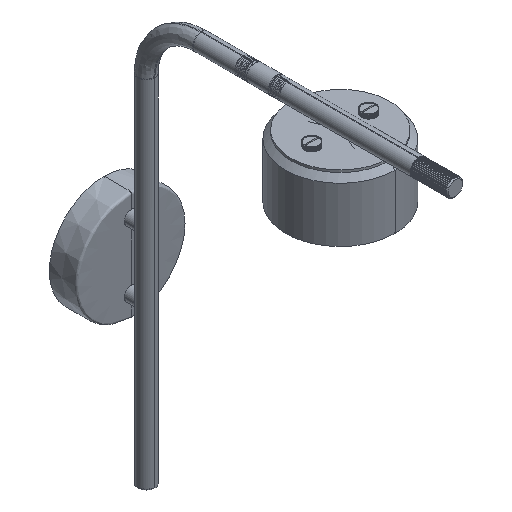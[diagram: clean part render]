
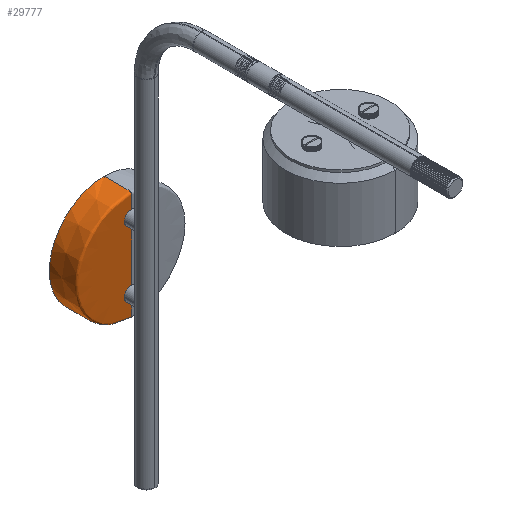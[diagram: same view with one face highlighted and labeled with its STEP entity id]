
A CAD part, isometric view. The second image highlights one B-rep face of the part: STEP entity #29777.
In plain terms, the highlighted free-form (B-spline) face has degree [2, 2] with [7, 5] control points.
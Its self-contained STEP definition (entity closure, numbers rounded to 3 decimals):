
#224 = CARTESIAN_POINT ( 'NONE',  ( 309., 47.5, 201.264 ) ) ;
#1681 = CARTESIAN_POINT ( 'NONE',  ( 309., 47.5, 201.264 ) ) ;
#1913 = CARTESIAN_POINT ( 'NONE',  ( 309., 24.5, 101.264 ) ) ;
#2345 = CARTESIAN_POINT ( 'NONE',  ( 259., 24.5, 151.264 ) ) ;
#2785 = CARTESIAN_POINT ( 'NONE',  ( 309., 22.5, 151.264 ) ) ;
#4543 = EDGE_CURVE ( 'NONE', #14286, #6048, #34027, .T. ) ;
#5151 = ORIENTED_EDGE ( 'NONE', *, *, #4543, .T. ) ;
#5488 = CARTESIAN_POINT ( 'NONE',  ( 259., 47.5, 201.264 ) ) ;
#5697 = CARTESIAN_POINT ( 'NONE',  ( 259., 22.5, 151.264 ) ) ;
#5914 = CARTESIAN_POINT ( 'NONE',  ( 259., 47.5, 151.264 ) ) ;
#6048 = VERTEX_POINT ( 'NONE', #224 ) ;
#6128 = CARTESIAN_POINT ( 'NONE',  ( 309., 24.5, 101.264 ) ) ;
#6565 = CARTESIAN_POINT ( 'NONE',  ( 309., 22.5, 127.264 ) ) ;
#8849 = CARTESIAN_POINT ( 'NONE',  ( 259., 47.5, 151.264 ) ) ;
#8851 = CARTESIAN_POINT ( 'NONE',  ( 309., 47.5, 201.264 ) ) ;
#9071 = CARTESIAN_POINT ( 'NONE',  ( 259., 22.5, 101.264 ) ) ;
#9285 = CARTESIAN_POINT ( 'NONE',  ( 309., 22.5, 101.264 ) ) ;
#9496 = CARTESIAN_POINT ( 'NONE',  ( 309., 22.5, 151.264 ) ) ;
#9723 = CARTESIAN_POINT ( 'NONE',  ( 259., 24.5, 101.264 ) ) ;
#11618 = ORIENTED_EDGE ( 'NONE', *, *, #27422, .T. ) ;
#11983 = CARTESIAN_POINT ( 'NONE',  ( 309., 22.5, 151.264 ) ) ;
#12198 = CARTESIAN_POINT ( 'NONE',  ( 309., 24.5, 201.264 ) ) ;
#12208 = CARTESIAN_POINT ( 'NONE',  ( 259., 36., 151.264 ) ) ;
#12420 = CARTESIAN_POINT ( 'NONE',  ( 309., 22.5, 151.264 ) ) ;
#12642 = CARTESIAN_POINT ( 'NONE',  ( 309., 22.5, 151.264 ) ) ;
#12858 = FACE_OUTER_BOUND ( 'NONE', #34973, .T. ) ;
#13072 = CARTESIAN_POINT ( 'NONE',  ( 309., 22.5, 201.264 ) ) ;
#14286 = VERTEX_POINT ( 'NONE', #20779 ) ;
#15461 = VERTEX_POINT ( 'NONE', #20577 ) ;
#15576 = CARTESIAN_POINT ( 'NONE',  ( 259., 36., 201.264 ) ) ;
#15792 = CARTESIAN_POINT ( 'NONE',  ( 285., 22.5, 127.264 ) ) ;
#16002 = CARTESIAN_POINT ( 'NONE',  ( 309., 36., 201.264 ) ) ;
#18479 = CARTESIAN_POINT ( 'NONE',  ( 309., 36., 201.264 ) ) ;
#18853 = CARTESIAN_POINT ( 'NONE',  ( 309., 36., 101.264 ) ) ;
#18926 = CARTESIAN_POINT ( 'NONE',  ( 309., 22.5, 201.264 ) ) ;
#19163 = CARTESIAN_POINT ( 'NONE',  ( 309., 22.5, 151.264 ) ) ;
#19370 = CARTESIAN_POINT ( 'NONE',  ( 309., 47.5, 201.264 ) ) ;
#19580 = CARTESIAN_POINT ( 'NONE',  ( 261., 22.5, 103.264 ) ) ;
#20577 = CARTESIAN_POINT ( 'NONE',  ( 309., 47.5, 101.264 ) ) ;
#20779 = CARTESIAN_POINT ( 'NONE',  ( 309., 22.5, 151.264 ) ) ;
#22053 = ORIENTED_EDGE ( 'NONE', *, *, #27703, .F. ) ;
#22104 =( BOUNDED_CURVE ( )  B_SPLINE_CURVE ( 2, ( #19370, #22717, #8849, #43229, #22277 ),
 .UNSPECIFIED., .F., .F. ) 
 B_SPLINE_CURVE_WITH_KNOTS ( ( 3, 2, 3 ),
 ( 0., 78.54, 157.08 ),
 .UNSPECIFIED. ) 
 CURVE ( )  GEOMETRIC_REPRESENTATION_ITEM ( )  RATIONAL_B_SPLINE_CURVE ( ( 1., 0.707, 1., 0.707, 1. ) ) 
 REPRESENTATION_ITEM ( '' )  );
#22277 = CARTESIAN_POINT ( 'NONE',  ( 309., 47.5, 101.264 ) ) ;
#22497 = CARTESIAN_POINT ( 'NONE',  ( 259., 47.5, 101.264 ) ) ;
#22717 = CARTESIAN_POINT ( 'NONE',  ( 259., 47.5, 201.264 ) ) ;
#23138 = CARTESIAN_POINT ( 'NONE',  ( 309., 22.5, 127.264 ) ) ;
#26065 = CARTESIAN_POINT ( 'NONE',  ( 309., 22.5, 175.264 ) ) ;
#26412 = CARTESIAN_POINT ( 'NONE',  ( 309., 47.5, 101.264 ) ) ;
#26664 =( BOUNDED_SURFACE ( )  B_SPLINE_SURFACE ( 2, 2, ( 
 ( #12420, #9496, #19163, #12642, #2785 ),
 ( #26065, #39650, #43450, #15792, #23138 ),
 ( #43668, #43231, #36305, #19580, #39869 ),
 ( #13072, #40306, #5697, #9071, #9285 ),
 ( #32514, #26716, #2345, #9723, #1913 ),
 ( #16002, #15576, #12208, #29621, #39437 ),
 ( #8851, #5488, #5914, #22497, #33161 ) ),
 .UNSPECIFIED., .F., .F., .F. ) 
 B_SPLINE_SURFACE_WITH_KNOTS ( ( 3, 2, 2, 3 ),
 ( 3, 2, 3 ),
 ( -48., 0., 3.142, 26.142 ),
 ( 0., 78.54, 157.08 ),
 .UNSPECIFIED. ) 
 GEOMETRIC_REPRESENTATION_ITEM ( )  RATIONAL_B_SPLINE_SURFACE ( (
 ( 1., 0.707, 1., 0.707, 1.),
 ( 1., 0.707, 1., 0.707, 1.),
 ( 1., 0.707, 1., 0.707, 1.),
 ( 0.707, 0.5, 0.707, 0.5, 0.707),
 ( 1., 0.707, 1., 0.707, 1.),
 ( 1., 0.707, 1., 0.707, 1.),
 ( 1., 0.707, 1., 0.707, 1.) ) ) 
 REPRESENTATION_ITEM ( '' )  SURFACE ( )  );
#26716 = CARTESIAN_POINT ( 'NONE',  ( 259., 24.5, 201.264 ) ) ;
#26934 = CARTESIAN_POINT ( 'NONE',  ( 309., 22.5, 151.264 ) ) ;
#27422 = EDGE_CURVE ( 'NONE', #6048, #15461, #22104, .T. ) ;
#27703 = EDGE_CURVE ( 'NONE', #14286, #15461, #27731, .T. ) ;
#27731 =( BOUNDED_CURVE ( )  B_SPLINE_CURVE ( 2, ( #26934, #6565, #44092, #36722, #6128, #18853, #26412 ),
 .UNSPECIFIED., .F., .F. ) 
 B_SPLINE_CURVE_WITH_KNOTS ( ( 3, 2, 2, 3 ),
 ( -48., 0., 3.142, 26.142 ),
 .UNSPECIFIED. ) 
 CURVE ( )  GEOMETRIC_REPRESENTATION_ITEM ( )  RATIONAL_B_SPLINE_CURVE ( ( 1., 1., 1., 0.707, 1., 1., 1. ) ) 
 REPRESENTATION_ITEM ( '' )  );
#29621 = CARTESIAN_POINT ( 'NONE',  ( 259., 36., 101.264 ) ) ;
#29777 = ADVANCED_FACE ( 'NONE', ( #12858 ), #26664, .T. ) ;
#32514 = CARTESIAN_POINT ( 'NONE',  ( 309., 24.5, 201.264 ) ) ;
#33161 = CARTESIAN_POINT ( 'NONE',  ( 309., 47.5, 101.264 ) ) ;
#34027 =( BOUNDED_CURVE ( )  B_SPLINE_CURVE ( 2, ( #11983, #35858, #42576, #18926, #12198, #18479, #1681 ),
 .UNSPECIFIED., .F., .F. ) 
 B_SPLINE_CURVE_WITH_KNOTS ( ( 3, 2, 2, 3 ),
 ( -48., 0., 3.142, 26.142 ),
 .UNSPECIFIED. ) 
 CURVE ( )  GEOMETRIC_REPRESENTATION_ITEM ( )  RATIONAL_B_SPLINE_CURVE ( ( 1., 1., 1., 0.707, 1., 1., 1. ) ) 
 REPRESENTATION_ITEM ( '' )  );
#34973 = EDGE_LOOP ( 'NONE', ( #5151, #11618, #22053 ) ) ;
#35858 = CARTESIAN_POINT ( 'NONE',  ( 309., 22.5, 175.264 ) ) ;
#36305 = CARTESIAN_POINT ( 'NONE',  ( 261., 22.5, 151.264 ) ) ;
#36722 = CARTESIAN_POINT ( 'NONE',  ( 309., 22.5, 101.264 ) ) ;
#39437 = CARTESIAN_POINT ( 'NONE',  ( 309., 36., 101.264 ) ) ;
#39650 = CARTESIAN_POINT ( 'NONE',  ( 285., 22.5, 175.264 ) ) ;
#39869 = CARTESIAN_POINT ( 'NONE',  ( 309., 22.5, 103.264 ) ) ;
#40306 = CARTESIAN_POINT ( 'NONE',  ( 259., 22.5, 201.264 ) ) ;
#42576 = CARTESIAN_POINT ( 'NONE',  ( 309., 22.5, 199.264 ) ) ;
#43229 = CARTESIAN_POINT ( 'NONE',  ( 259., 47.5, 101.264 ) ) ;
#43231 = CARTESIAN_POINT ( 'NONE',  ( 261., 22.5, 199.264 ) ) ;
#43450 = CARTESIAN_POINT ( 'NONE',  ( 285., 22.5, 151.264 ) ) ;
#43668 = CARTESIAN_POINT ( 'NONE',  ( 309., 22.5, 199.264 ) ) ;
#44092 = CARTESIAN_POINT ( 'NONE',  ( 309., 22.5, 103.264 ) ) ;
